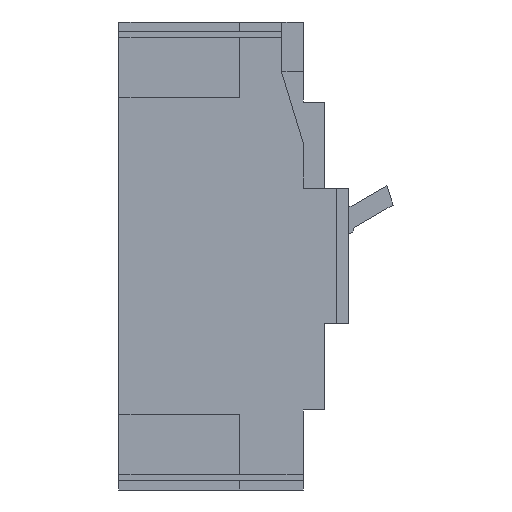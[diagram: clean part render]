
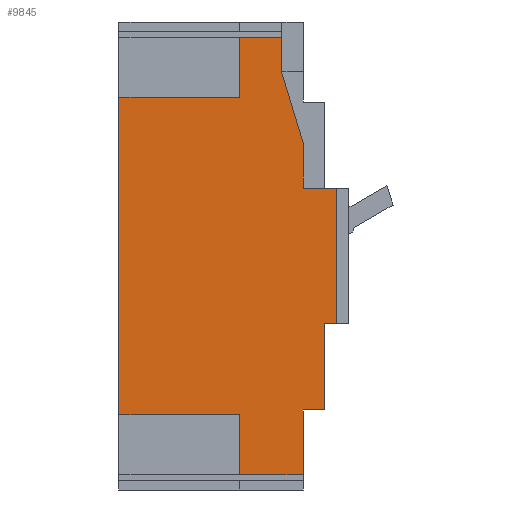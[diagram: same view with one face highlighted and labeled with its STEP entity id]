
A CAD part, left-side view. The second image highlights one B-rep face of the part: STEP entity #9845.
In plain terms, the highlighted planar face has unit normal (-1, 0, 0).
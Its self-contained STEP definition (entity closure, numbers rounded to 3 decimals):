
#2=DIRECTION('',(0.,-1.,0.));
#3=VECTOR('',#2,40.);
#4=CARTESIAN_POINT('',(-60.,30.5,-52.5));
#5=LINE('',#4,#3);
#6=DIRECTION('',(0.,0.,1.));
#7=VECTOR('',#6,105.);
#8=CARTESIAN_POINT('',(-60.,30.5,-52.5));
#9=LINE('',#8,#7);
#10=DIRECTION('',(0.,-1.,0.));
#11=VECTOR('',#10,40.);
#12=CARTESIAN_POINT('',(-60.,30.5,52.5));
#13=LINE('',#12,#11);
#14=DIRECTION('',(0.,0.,-1.));
#15=VECTOR('',#14,20.);
#16=CARTESIAN_POINT('',(-60.,-9.5,72.5));
#17=LINE('',#16,#15);
#18=DIRECTION('',(0.,-1.,0.));
#19=VECTOR('',#18,14.);
#20=CARTESIAN_POINT('',(-60.,-9.5,72.5));
#21=LINE('',#20,#19);
#22=DIRECTION('',(0.,0.,-1.));
#23=VECTOR('',#22,12.);
#24=CARTESIAN_POINT('',(-60.,-23.5,72.5));
#25=LINE('',#24,#23);
#26=DIRECTION('',(0.,0.291,0.957));
#27=VECTOR('',#26,24.042);
#28=CARTESIAN_POINT('',(-60.,-30.5,37.5));
#29=LINE('',#28,#27);
#30=DIRECTION('',(0.,0.,1.));
#31=VECTOR('',#30,15.);
#32=CARTESIAN_POINT('',(-60.,-30.5,22.5));
#33=LINE('',#32,#31);
#34=DIRECTION('',(0.,0.,-1.));
#35=VECTOR('',#34,45.);
#36=CARTESIAN_POINT('',(-60.,-41.5,22.5));
#37=LINE('',#36,#35);
#38=DIRECTION('',(0.,1.,0.));
#39=VECTOR('',#38,4.);
#40=CARTESIAN_POINT('',(-60.,-41.5,-22.5));
#41=LINE('',#40,#39);
#42=DIRECTION('',(0.,0.,-1.));
#43=VECTOR('',#42,28.5);
#44=CARTESIAN_POINT('',(-60.,-37.5,-22.5));
#45=LINE('',#44,#43);
#46=DIRECTION('',(0.,1.,0.));
#47=VECTOR('',#46,7.);
#48=CARTESIAN_POINT('',(-60.,-37.5,-51.));
#49=LINE('',#48,#47);
#50=DIRECTION('',(0.,0.,-1.));
#51=VECTOR('',#50,21.5);
#52=CARTESIAN_POINT('',(-60.,-30.5,-51.));
#53=LINE('',#52,#51);
#54=DIRECTION('',(0.,-1.,0.));
#55=VECTOR('',#54,21.);
#56=CARTESIAN_POINT('',(-60.,-9.5,-72.5));
#57=LINE('',#56,#55);
#58=DIRECTION('',(0.,0.,1.));
#59=VECTOR('',#58,20.);
#60=CARTESIAN_POINT('',(-60.,-9.5,-72.5));
#61=LINE('',#60,#59);
#925=DIRECTION('',(0.,1.,0.));
#926=VECTOR('',#925,11.);
#927=CARTESIAN_POINT('',(-60.,-41.5,22.5));
#928=LINE('',#927,#926);
#7386=CARTESIAN_POINT('',(-60.,-37.5,-22.5));
#7387=CARTESIAN_POINT('',(-60.,-37.5,-51.));
#7388=VERTEX_POINT('',#7386);
#7389=VERTEX_POINT('',#7387);
#7390=CARTESIAN_POINT('',(-60.,-30.5,-51.));
#7391=VERTEX_POINT('',#7390);
#8290=CARTESIAN_POINT('',(-60.,-30.5,-72.5));
#8291=VERTEX_POINT('',#8290);
#8346=CARTESIAN_POINT('',(-60.,-41.5,22.5));
#8347=CARTESIAN_POINT('',(-60.,-41.5,-22.5));
#8348=VERTEX_POINT('',#8346);
#8349=VERTEX_POINT('',#8347);
#8662=CARTESIAN_POINT('',(-60.,-30.5,22.5));
#8663=VERTEX_POINT('',#8662);
#8664=CARTESIAN_POINT('',(-60.,-30.5,37.5));
#8665=VERTEX_POINT('',#8664);
#8666=CARTESIAN_POINT('',(-60.,-23.5,60.5));
#8667=VERTEX_POINT('',#8666);
#8672=CARTESIAN_POINT('',(-60.,-23.5,72.5));
#8673=VERTEX_POINT('',#8672);
#9086=CARTESIAN_POINT('',(-60.,-9.5,-52.5));
#9087=VERTEX_POINT('',#9086);
#9088=CARTESIAN_POINT('',(-60.,-9.5,52.5));
#9089=VERTEX_POINT('',#9088);
#9090=CARTESIAN_POINT('',(-60.,30.5,-52.5));
#9091=VERTEX_POINT('',#9090);
#9096=CARTESIAN_POINT('',(-60.,-9.5,-72.5));
#9097=VERTEX_POINT('',#9096);
#9102=CARTESIAN_POINT('',(-60.,-9.5,72.5));
#9103=VERTEX_POINT('',#9102);
#9104=CARTESIAN_POINT('',(-60.,30.5,52.5));
#9105=VERTEX_POINT('',#9104);
#9806=CARTESIAN_POINT('',(-60.,0.,0.));
#9807=DIRECTION('',(1.,0.,0.));
#9808=DIRECTION('',(0.,-1.,0.));
#9809=AXIS2_PLACEMENT_3D('',#9806,#9807,#9808);
#9810=PLANE('',#9809);
#9812=ORIENTED_EDGE('',*,*,#9811,.F.);
#9814=ORIENTED_EDGE('',*,*,#9813,.T.);
#9816=ORIENTED_EDGE('',*,*,#9815,.T.);
#9818=ORIENTED_EDGE('',*,*,#9817,.F.);
#9820=ORIENTED_EDGE('',*,*,#9819,.T.);
#9822=ORIENTED_EDGE('',*,*,#9821,.T.);
#9824=ORIENTED_EDGE('',*,*,#9823,.F.);
#9826=ORIENTED_EDGE('',*,*,#9825,.F.);
#9828=ORIENTED_EDGE('',*,*,#9827,.F.);
#9830=ORIENTED_EDGE('',*,*,#9829,.T.);
#9832=ORIENTED_EDGE('',*,*,#9831,.T.);
#9834=ORIENTED_EDGE('',*,*,#9833,.T.);
#9836=ORIENTED_EDGE('',*,*,#9835,.T.);
#9838=ORIENTED_EDGE('',*,*,#9837,.T.);
#9840=ORIENTED_EDGE('',*,*,#9839,.F.);
#9842=ORIENTED_EDGE('',*,*,#9841,.T.);
#9843=EDGE_LOOP('',(#9812,#9814,#9816,#9818,#9820,#9822,#9824,#9826,#9828,#9830,
#9832,#9834,#9836,#9838,#9840,#9842));
#9844=FACE_OUTER_BOUND('',#9843,.F.);
#9811=EDGE_CURVE('',#9091,#9087,#5,.T.);
#9813=EDGE_CURVE('',#9091,#9105,#9,.T.);
#9815=EDGE_CURVE('',#9105,#9089,#13,.T.);
#9817=EDGE_CURVE('',#9103,#9089,#17,.T.);
#9819=EDGE_CURVE('',#9103,#8673,#21,.T.);
#9821=EDGE_CURVE('',#8673,#8667,#25,.T.);
#9823=EDGE_CURVE('',#8665,#8667,#29,.T.);
#9825=EDGE_CURVE('',#8663,#8665,#33,.T.);
#9827=EDGE_CURVE('',#8348,#8663,#928,.T.);
#9829=EDGE_CURVE('',#8348,#8349,#37,.T.);
#9831=EDGE_CURVE('',#8349,#7388,#41,.T.);
#9833=EDGE_CURVE('',#7388,#7389,#45,.T.);
#9835=EDGE_CURVE('',#7389,#7391,#49,.T.);
#9837=EDGE_CURVE('',#7391,#8291,#53,.T.);
#9839=EDGE_CURVE('',#9097,#8291,#57,.T.);
#9841=EDGE_CURVE('',#9097,#9087,#61,.T.);
#9845=ADVANCED_FACE('',(#9844),#9810,.F.);
